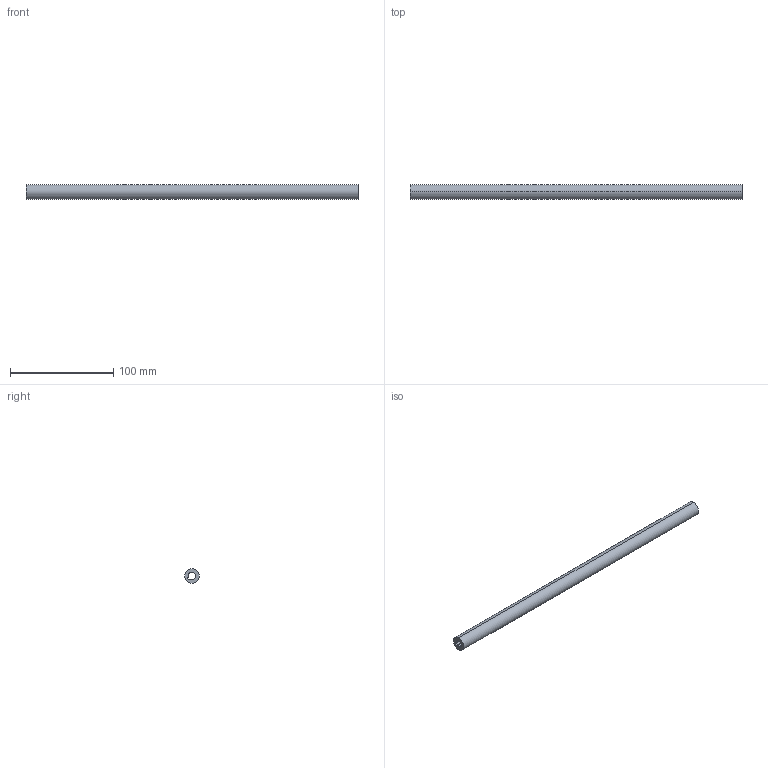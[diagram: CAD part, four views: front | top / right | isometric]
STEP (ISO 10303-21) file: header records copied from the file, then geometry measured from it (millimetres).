
FILE_DESCRIPTION (( 'STEP AP214' ), '1' );
FILE_NAME ('SyncronisationsstangeXP_KAB_450_16.step', '2009-11-24T08:53:22', ( 'Grass' ), ( 'Grass GmbH' ), 'SwSTEP 2.0', 'SolidWorks 2009', '' );
FILE_SCHEMA (( 'AUTOMOTIVE_DESIGN' ));
Length unit declared in the file: millimetre
Products named in the file (1): SyncronisationsstangeXP_KAB_450_16
Bounding box: 321 x 14 x 14 mm (x, y, z)
Volume: 34709.6 mm3; surface area: 22513.9 mm2
Topology: 1 solids, 1 shells, 15 faces, 39 edges, 26 vertices
Faces by surface type: cylinder 11, plane 4
Entity records: 513 total; most frequent: DIRECTION 93, CARTESIAN_POINT 81, ORIENTED_EDGE 78, EDGE_CURVE 39, AXIS2_PLACEMENT_3D 38, VERTEX_POINT 26, CIRCLE 22, VECTOR 17
